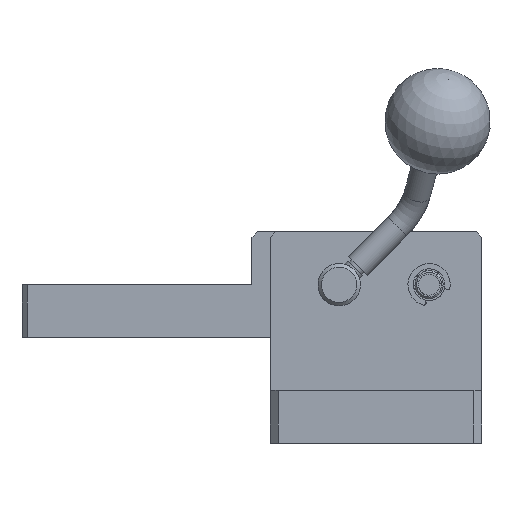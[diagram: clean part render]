
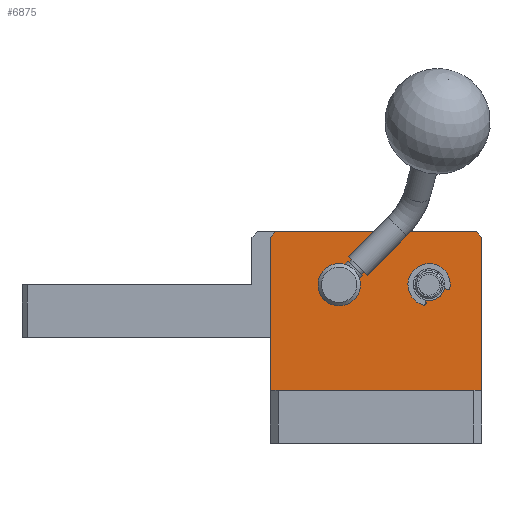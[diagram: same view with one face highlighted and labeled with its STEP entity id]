
A CAD part, front view. The second image highlights one B-rep face of the part: STEP entity #6875.
In plain terms, the highlighted planar face has unit normal (0, -1, 0).
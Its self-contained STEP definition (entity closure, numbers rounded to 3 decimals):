
#1646=LINE('',#26188,#3085);
#1664=LINE('',#26296,#3103);
#1666=LINE('',#26302,#3105);
#1667=LINE('',#26304,#3106);
#1668=LINE('',#26306,#3107);
#1669=LINE('',#26307,#3108);
#3085=VECTOR('',#19405,1.);
#3103=VECTOR('',#19441,1.);
#3105=VECTOR('',#19447,1.);
#3106=VECTOR('',#19448,1.);
#3107=VECTOR('',#19449,1.);
#3108=VECTOR('',#19450,1.);
#5554=PLANE('',#17232);
#6875=ADVANCED_FACE('',(#7639,#7640,#7641),#5554,.F.);
#7639=FACE_BOUND('',#8350,.T.);
#7640=FACE_BOUND('',#8351,.T.);
#7641=FACE_BOUND('',#8352,.T.);
#8350=EDGE_LOOP('',(#11105));
#8351=EDGE_LOOP('',(#11106,#11107,#11108,#11109,#11110,#11111));
#8352=EDGE_LOOP('',(#11112));
#11105=ORIENTED_EDGE('',*,*,#15680,.F.);
#11106=ORIENTED_EDGE('',*,*,#15681,.F.);
#11107=ORIENTED_EDGE('',*,*,#15654,.F.);
#11108=ORIENTED_EDGE('',*,*,#15682,.F.);
#11109=ORIENTED_EDGE('',*,*,#15683,.F.);
#11110=ORIENTED_EDGE('',*,*,#15678,.F.);
#11111=ORIENTED_EDGE('',*,*,#15684,.T.);
#11112=ORIENTED_EDGE('',*,*,#15685,.T.);
#13922=VERTEX_POINT('',#26187);
#13923=VERTEX_POINT('',#26189);
#13942=VERTEX_POINT('',#26295);
#13943=VERTEX_POINT('',#26297);
#13944=VERTEX_POINT('',#26301);
#13945=VERTEX_POINT('',#26303);
#13946=VERTEX_POINT('',#26305);
#13947=VERTEX_POINT('',#26309);
#15654=EDGE_CURVE('',#13922,#13923,#1646,.T.);
#15678=EDGE_CURVE('',#13942,#13943,#1664,.T.);
#15680=EDGE_CURVE('',#13944,#13944,#16648,.T.);
#15681=EDGE_CURVE('',#13923,#13945,#1666,.T.);
#15682=EDGE_CURVE('',#13946,#13922,#1667,.T.);
#15683=EDGE_CURVE('',#13943,#13946,#1668,.T.);
#15684=EDGE_CURVE('',#13942,#13945,#1669,.T.);
#15685=EDGE_CURVE('',#13947,#13947,#16649,.T.);
#16648=CIRCLE('',#17230,3.);
#16649=CIRCLE('',#17231,4.);
#17230=AXIS2_PLACEMENT_3D('',#26300,#19445,#19446);
#17231=AXIS2_PLACEMENT_3D('',#26308,#19451,#19452);
#17232=AXIS2_PLACEMENT_3D('',#26310,#19453,#19454);
#19405=DIRECTION('',(0.,0.,-1.));
#19441=DIRECTION('',(0.707,0.,0.707));
#19445=DIRECTION('',(0.,-1.,0.));
#19446=DIRECTION('',(1.,0.,0.));
#19447=DIRECTION('',(-1.,0.,0.));
#19448=DIRECTION('',(0.707,0.,-0.707));
#19449=DIRECTION('',(1.,0.,0.));
#19450=DIRECTION('',(0.,0.,-1.));
#19451=DIRECTION('',(0.,1.,0.));
#19452=DIRECTION('',(0.,0.,-1.));
#19453=DIRECTION('',(0.,1.,0.));
#19454=DIRECTION('',(0.,0.,1.));
#26187=CARTESIAN_POINT('',(-240.956,75.5,37.986));
#26188=CARTESIAN_POINT('',(-240.956,75.5,10.32));
#26189=CARTESIAN_POINT('',(-240.956,75.5,8.986));
#26295=CARTESIAN_POINT('',(-280.956,75.5,37.986));
#26296=CARTESIAN_POINT('',(-280.956,75.5,37.986));
#26297=CARTESIAN_POINT('',(-279.956,75.5,38.986));
#26300=CARTESIAN_POINT('',(-250.956,75.5,28.986));
#26301=CARTESIAN_POINT('',(-247.956,75.5,28.986));
#26302=CARTESIAN_POINT('',(-280.956,75.5,8.986));
#26303=CARTESIAN_POINT('',(-280.956,75.5,8.986));
#26304=CARTESIAN_POINT('',(-240.956,75.5,37.986));
#26305=CARTESIAN_POINT('',(-241.956,75.5,38.986));
#26306=CARTESIAN_POINT('',(-280.956,75.5,38.986));
#26307=CARTESIAN_POINT('',(-280.956,75.5,10.32));
#26308=CARTESIAN_POINT('',(-267.956,75.5,28.986));
#26309=CARTESIAN_POINT('',(-267.956,75.5,24.986));
#26310=CARTESIAN_POINT('',(-280.956,75.5,32.986));
